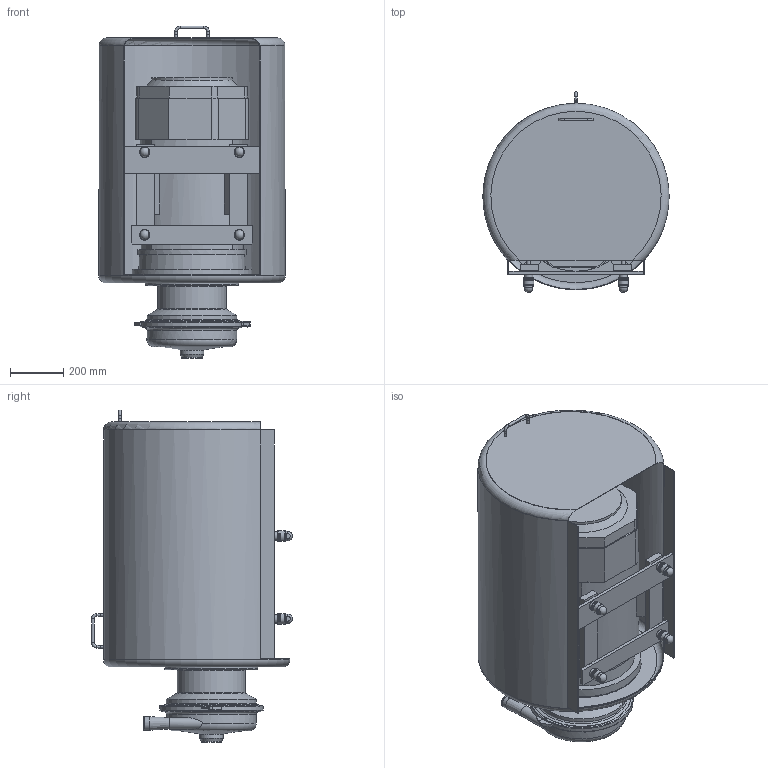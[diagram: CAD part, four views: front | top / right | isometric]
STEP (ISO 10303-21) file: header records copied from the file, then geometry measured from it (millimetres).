
FILE_DESCRIPTION((''),'2;1');
FILE_NAME('T:\_Engineering\Read Only\Products\Pumps\_W+_MODELS\# Pump_models\W+_models_assembly\W+_models_assembly\IPT\W+80-80_225(SMA2(D)-SMB2(D))_FRAME_SRD_Shrinkwrap.ipt.step','2014-06-10T02:13:59',(''),(''),'Autodesk Inventor 2012','Autodesk Inventor 2012','');
FILE_SCHEMA(('CONFIG_CONTROL_DESIGN'));
Length unit declared in the file: millimetre
Products named in the file (1): W+80-80_225(SMA2(D)-SMB2(D))_FRAME_SRD_Shrinkwrap
Bounding box: 700 x 754.89 x 1248 mm (x, y, z)
Volume: 133939267.5 mm3; surface area: 7035317.5 mm2
Topology: 4 solids, 8 shells, 417 faces, 998 edges, 637 vertices
Faces by surface type: plane 227, cylinder 119, cone 44, torus 23, sphere 4
Full cylindrical faces by diameter (mm): 4.917 x4, 7 x4, 10 x7, 14 x10, 15 x4, 18.5 x8, 32 x4, 32.4 x4, 35.4 x8, 36 x4, 40 x4, 42.6 x1, 51.6 x1, 55 x1, 72.8 x1, 76.6 x1, 89 x1, 242 x1, 250 x1, 256 x1, 302.154 x1, 320 x1, 327 x1, 330 x1, 337 x1, 338 x1, 350 x1, 410 x1, 450 x1, 697 x1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
Entity records: 12132 total; most frequent: CARTESIAN_POINT 2559, DIRECTION 1944, ORIENTED_EDGE 1658, EDGE_CURVE 829, AXIS2_PLACEMENT_3D 761, EDGE_LOOP 615, VERTEX_POINT 596, VECTOR 422
